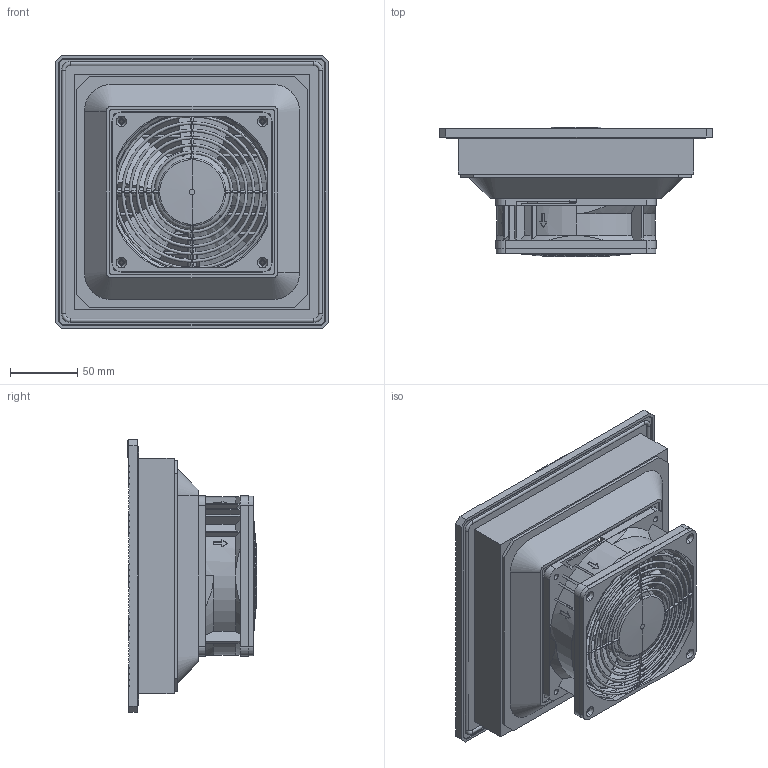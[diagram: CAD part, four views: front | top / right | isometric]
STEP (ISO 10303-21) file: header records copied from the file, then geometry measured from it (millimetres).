
FILE_DESCRIPTION (( 'STEP AP214' ), '1' );
FILE_NAME ('PF 3x000.STEP', '2007-05-29T09:16:21', ( 'Pfannenberg' ), ( 'Pfannenberg Group' ), 'SwSTEP 2.0', 'SolidWorks 2007', '' );
FILE_SCHEMA (( 'AUTOMOTIVE_DESIGN' ));
Length unit declared in the file: millimetre
Products named in the file (7): flow in nozzel PF3x_Standard; Axiallüfter Serie 4000 AC_Standard; PF 3x000; Berührungsschutzgitter LZ 30-8_Standard; 30162-013_Standard; cover PF3x_Standard; housing PF3x_Standard
Assembly tree (6 placements, depth 2):
  PF 3x000
    Berührungsschutzgitter LZ 30-8_Standard
    housing PF3x_Standard
    cover PF3x_Standard
    flow in nozzel PF3x_Standard
    30162-013_Standard
    Axiallüfter Serie 4000 AC_Standard
Bounding box: 202.5 x 96.44 x 202.5 mm (x, y, z)
Volume: 373901.5 mm3; surface area: 370622.4 mm2
Topology: 7 solids, 7 shells, 2685 faces, 7673 edges, 4999 vertices
Faces by surface type: plane 1790, cylinder 467, bspline 296, torus 86, cone 46
Entity records: 114391 total; most frequent: CARTESIAN_POINT 47171, ORIENTED_EDGE 15322, DIRECTION 11718, EDGE_CURVE 7661, VECTOR 5274, LINE 5274, VERTEX_POINT 4999, AXIS2_PLACEMENT_3D 3222
